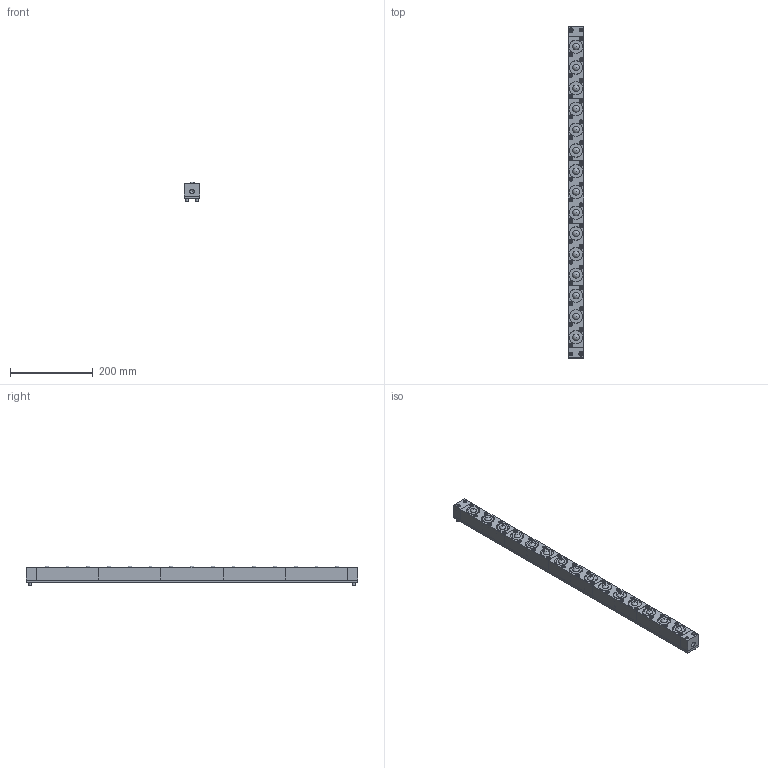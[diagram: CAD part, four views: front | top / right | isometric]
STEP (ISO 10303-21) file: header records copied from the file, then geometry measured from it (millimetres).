
FILE_DESCRIPTION(/* description */ (''),/* implementation_level */ '2;1');
FILE_NAME(/* name */ 'Z:\34-Tei\01-web 3Dデータ\40-ISR-38\X2\578B\X0\\ISR-38-800-A.stp',/* time_stamp */ '2015-01-15T17:56:57+09:00',/* author */ ('yamaki'),/* organization */ (''),/* preprocessor_version */ 'ST-DEVELOPER v15.6',/* originating_system */ 'Autodesk Inventor 2015',/* authorisation */ '');
FILE_SCHEMA (('AUTOMOTIVE_DESIGN { 1 0 10303 214 3 1 1 }'));
Length unit declared in the file: millimetre
Products named in the file (6): 4100AT-01-800; 4100AT-00; 4100AT-03; RSW10601; HCB10635; 4100AA
Bounding box: 38 x 800 x 48 mm (x, y, z)
Volume: 1056202.3 mm3; surface area: 330183 mm2
Topology: 25 solids, 25 shells, 753 faces, 1561 edges, 1002 vertices
Faces by surface type: plane 482, cylinder 152, cone 68, torus 36, sphere 15
Full cylindrical faces by diameter (mm): 6 x2, 6.5 x2, 7 x2, 8 x2, 8.5 x30, 9.5 x30, 10 x2, 10.5 x1, 11 x2, 25.7 x15, 31.5 x15, 32 x15, 35 x30
Entity records: 5128 total; most frequent: CARTESIAN_POINT 929, DIRECTION 828, ORIENTED_EDGE 694, EDGE_CURVE 347, AXIS2_PLACEMENT_3D 310, EDGE_LOOP 284, VERTEX_POINT 249, LINE 208
